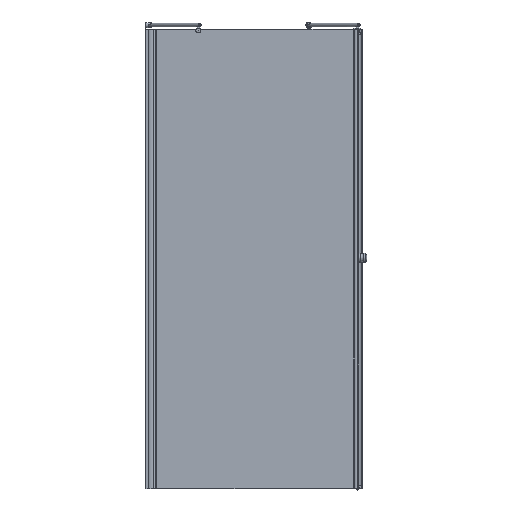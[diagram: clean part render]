
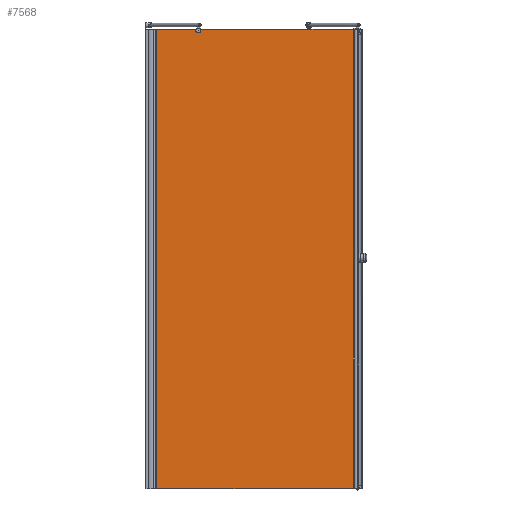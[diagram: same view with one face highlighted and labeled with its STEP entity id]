
A CAD part, front view. The second image highlights one B-rep face of the part: STEP entity #7568.
In plain terms, the highlighted planar face has unit normal (0, -1, 0).
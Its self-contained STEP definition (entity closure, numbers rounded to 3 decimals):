
#286=LINE($,#11560,#974);
#517=LINE($,#12473,#1205);
#525=LINE($,#12506,#1213);
#575=LINE($,#12662,#1263);
#579=LINE($,#12669,#1267);
#595=LINE($,#12702,#1283);
#596=LINE($,#12704,#1284);
#598=LINE($,#12708,#1286);
#974=VECTOR($,#9060,636.666);
#1205=VECTOR($,#9699,1900.);
#1213=VECTOR($,#9737,14.302);
#1263=VECTOR($,#9897,1.);
#1267=VECTOR($,#9903,820.698);
#1283=VECTOR($,#9951,1898.);
#1284=VECTOR($,#9954,3.);
#1286=VECTOR($,#9960,180.474);
#1934=FACE_OUTER_BOUND($,#2346,.T.);
#2346=EDGE_LOOP($,(#6071,#6072,#6073,#6074,#6075,#6076,#6077,#6078,#6079));
#2566=CIRCLE($,#7888,10.);
#3011=VERTEX_POINT($,#11328);
#3012=VERTEX_POINT($,#11329);
#3042=VERTEX_POINT($,#11559);
#3251=VERTEX_POINT($,#12419);
#3267=VERTEX_POINT($,#12469);
#3269=VERTEX_POINT($,#12472);
#3279=VERTEX_POINT($,#12505);
#3330=VERTEX_POINT($,#12661);
#3332=VERTEX_POINT($,#12667);
#3800=EDGE_CURVE($,#3011,#3012,#2566,.T.);
#3838=EDGE_CURVE($,#3042,#3011,#286,.T.);
#4179=EDGE_CURVE($,#3267,#3269,#517,.T.);
#4196=EDGE_CURVE($,#3279,#3269,#525,.T.);
#4275=EDGE_CURVE($,#3330,#3279,#575,.T.);
#4279=EDGE_CURVE($,#3267,#3332,#579,.T.);
#4295=EDGE_CURVE($,#3042,#3251,#595,.T.);
#4296=EDGE_CURVE($,#3251,#3332,#596,.T.);
#4298=EDGE_CURVE($,#3012,#3330,#598,.T.);
#6071=ORIENTED_EDGE($,*,*,#3800,.T.);
#6072=ORIENTED_EDGE($,*,*,#4298,.T.);
#6073=ORIENTED_EDGE($,*,*,#4275,.T.);
#6074=ORIENTED_EDGE($,*,*,#4196,.T.);
#6075=ORIENTED_EDGE($,*,*,#4179,.F.);
#6076=ORIENTED_EDGE($,*,*,#4279,.T.);
#6077=ORIENTED_EDGE($,*,*,#4296,.F.);
#6078=ORIENTED_EDGE($,*,*,#4295,.F.);
#6079=ORIENTED_EDGE($,*,*,#3838,.T.);
#6856=PLANE($,#8206);
#7568=ADVANCED_FACE($,(#1934),#6856,.T.);
#7888=AXIS2_PLACEMENT_3D($,#11330,#8991,#8992);
#8206=AXIS2_PLACEMENT_3D($,#12707,#9958,#9959);
#8991=DIRECTION('center_axis',(0.,1.,0.));
#8992=DIRECTION('ref_axis',(-0.597,0.,0.802));
#9060=DIRECTION($,(-1.,0.,0.));
#9699=DIRECTION($,(0.,0.,1.));
#9737=DIRECTION($,(1.,0.,0.));
#9897=DIRECTION($,(0.,0.,-1.));
#9903=DIRECTION($,(1.,0.,0.));
#9951=DIRECTION($,(0.,0.,-1.));
#9954=DIRECTION($,(0.,0.,-1.));
#9958=DIRECTION('center_axis',(0.,-1.,0.));
#9959=DIRECTION('ref_axis',(-1.,0.,0.));
#9960=DIRECTION($,(-1.,0.,0.));
#11328=CARTESIAN_POINT('',(594.353,-34.044,1385.944));
#11329=CARTESIAN_POINT('',(576.493,-34.044,1385.944));
#11330=CARTESIAN_POINT('Origin',(585.423,-34.044,1381.444));
#11559=CARTESIAN_POINT('',(1231.019,-34.044,1385.944));
#11560=CARTESIAN_POINT($,(1231.019,-34.044,1385.944));
#12419=CARTESIAN_POINT('',(1231.019,-34.044,-512.056));
#12469=CARTESIAN_POINT('',(410.321,-34.044,-515.056));
#12472=CARTESIAN_POINT('',(410.321,-34.044,1384.944));
#12473=CARTESIAN_POINT($,(410.321,-34.044,-515.056));
#12505=CARTESIAN_POINT('',(396.019,-34.044,1384.944));
#12506=CARTESIAN_POINT($,(812.001,-34.044,1384.944));
#12661=CARTESIAN_POINT('',(396.019,-34.044,1385.944));
#12662=CARTESIAN_POINT($,(396.019,-34.044,1385.944));
#12667=CARTESIAN_POINT('',(1231.019,-34.044,-515.056));
#12669=CARTESIAN_POINT($,(396.019,-34.044,-515.056));
#12702=CARTESIAN_POINT($,(1231.019,-34.044,1385.944));
#12704=CARTESIAN_POINT($,(1231.019,-34.044,1385.944));
#12707=CARTESIAN_POINT('Origin',(1231.019,-34.044,1385.944));
#12708=CARTESIAN_POINT($,(1231.019,-34.044,1385.944));
